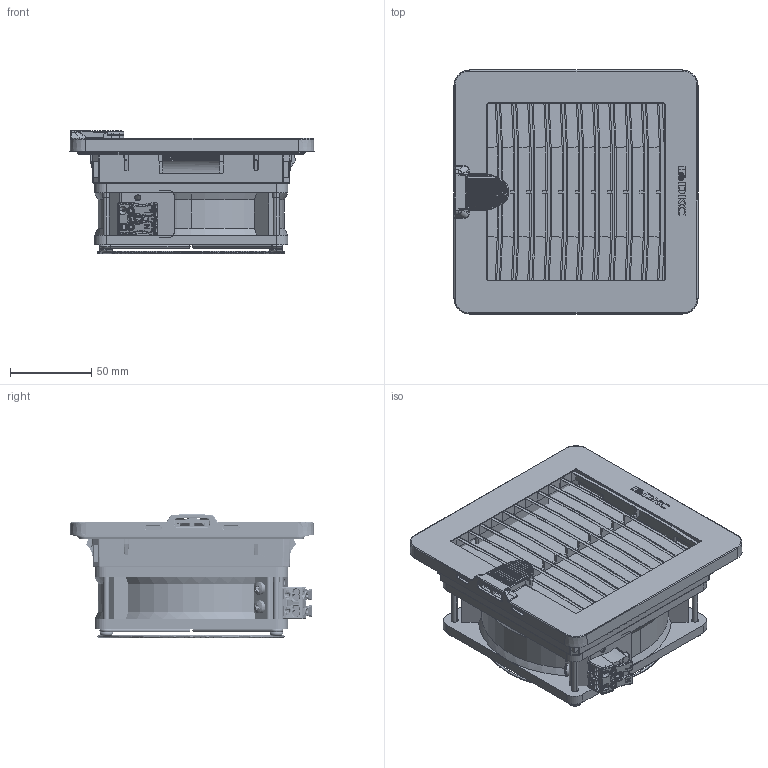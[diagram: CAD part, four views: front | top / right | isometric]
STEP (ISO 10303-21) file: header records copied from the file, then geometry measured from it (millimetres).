
FILE_DESCRIPTION (( 'STEP AP203' ), '1' );
FILE_NAME ('TPA.08.0017.00.00.0捘.STEP', '2022-06-30T12:05:44', ( '' ), ( '' ), 'SwSTEP 2.0', 'SolidWorks 2020', '' );
FILE_SCHEMA (( 'CONFIG_CONTROL_DESIGN' ));
Length unit declared in the file: millimetre
Products named in the file (16): TPA.08.0015.01.03.0; M4õ47 7109000126 Zinc_straigh; M4x6 DIN 7985 PH cl.4,8 Zinc_straight; RKF12 - BASE REV; TPA.08.0017.01.02.0; TPA.08.0017.02.00.0; RKF12 - GASKET REV.16_æ¥« ï; TPA.08.0017.01.00.0捘; TPA.08.0017.00.00.0捘; TPA.08.0017.03.00.1_á ¯à®à¥§ï¬¨; 4 DIN 6798 Zinc; Ðåøåòêà âåíòèëÿòîðà SUNON LP2212; TPA.08.0015.03.00.0_120x120; Âåíòèëÿòîð  SUNON DP200A-2123XBL-GN; TPA.08.0015.01.01.0; Êîëîäêà LK 980 RZ2
Assembly tree (20 placements, depth 3):
  TPA.08.0017.00.00.0捘
    TPA.08.0017.02.00.0
      RKF12 - BASE REV
      RKF12 - GASKET REV.16_æ¥« ï
    TPA.08.0015.03.00.0_120x120
    Âåíòèëÿòîð  SUNON DP200A-2123XBL-GN
    M4õ47 7109000126 Zinc_straigh  x4
    Ðåøåòêà âåíòèëÿòîðà SUNON LP2212
    TPA.08.0017.03.00.1_á ¯à®à¥§ï¬¨
    M4x6 DIN 7985 PH cl.4,8 Zinc_straight  x3
    4 DIN 6798 Zinc
    Êîëîäêà LK 980 RZ2
    TPA.08.0017.01.00.0捘
      TPA.08.0017.01.02.0
      TPA.08.0015.01.01.0
      TPA.08.0015.01.03.0
Bounding box: 150.4 x 150.4 x 76.18 mm (x, y, z)
Volume: 504502.8 mm3; surface area: 288313.8 mm2
Topology: 32 solids, 40 shells, 5097 faces, 13462 edges, 8413 vertices
Faces by surface type: plane 2128, cylinder 1653, bspline 663, cone 329, torus 306, sphere 18
Entity records: 217507 total; most frequent: CARTESIAN_POINT 108393, ORIENTED_EDGE 25794, DIRECTION 16797, EDGE_CURVE 12897, VERTEX_POINT 8107, B_SPLINE_CURVE_WITH_KNOTS 5855, AXIS2_PLACEMENT_3D 5762, LINE 5273
